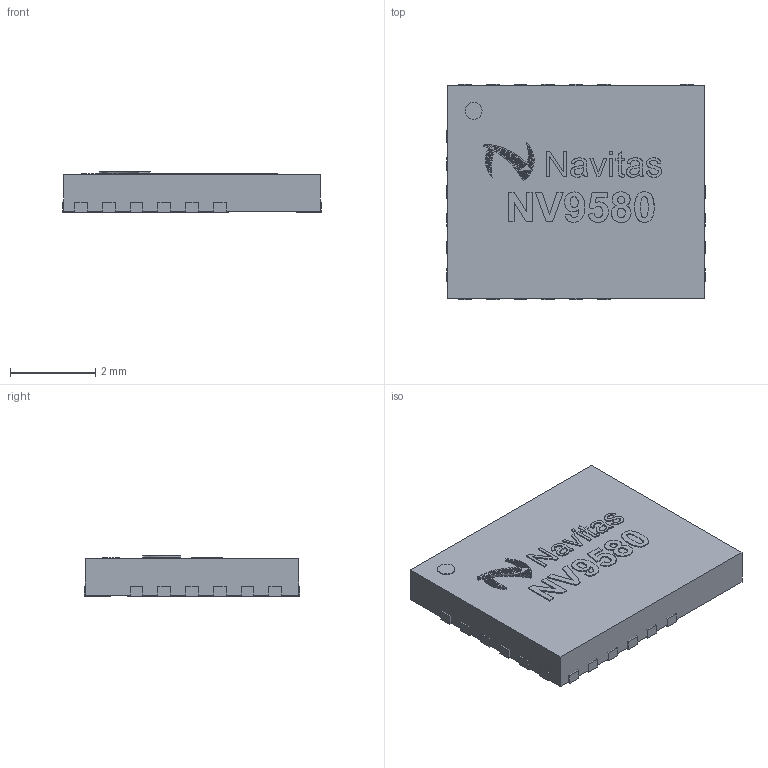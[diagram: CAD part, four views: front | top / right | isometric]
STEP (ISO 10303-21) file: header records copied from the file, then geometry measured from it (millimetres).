
FILE_DESCRIPTION(/* description */ (''),/* implementation_level */ '2;1');
FILE_NAME(/* name */ 'NV9580.step',/* time_stamp */ '2023-02-12T11:48:17-08:00',/* author */ (''),/* organization */ (''),/* preprocessor_version */ 'ST-DEVELOPER v19.2',/* originating_system */ 'Autodesk Translation Framework v11.17.0.187',/* authorisation */ '');
FILE_SCHEMA (('AUTOMOTIVE_DESIGN { 1 0 10303 214 3 1 1 }'));
Length unit declared in the file: millimetre
Products named in the file (1): NV9580
Bounding box: 6.05 x 5.05 x 0.94 mm (x, y, z)
Volume: 29.2 mm3; surface area: 126.5 mm2
Topology: 27 solids, 27 shells, 1273 faces, 2388 edges, 1169 vertices
Faces by surface type: plane 1065, bspline 196, cylinder 12
Full cylindrical faces by diameter (mm): 0.4 x1
Entity records: 31372 total; most frequent: CARTESIAN_POINT 8163, ORIENTED_EDGE 4776, DIRECTION 4176, EDGE_CURVE 2388, LINE 1972, VECTOR 1972, EDGE_LOOP 1285, FACE_OUTER_BOUND 1273
